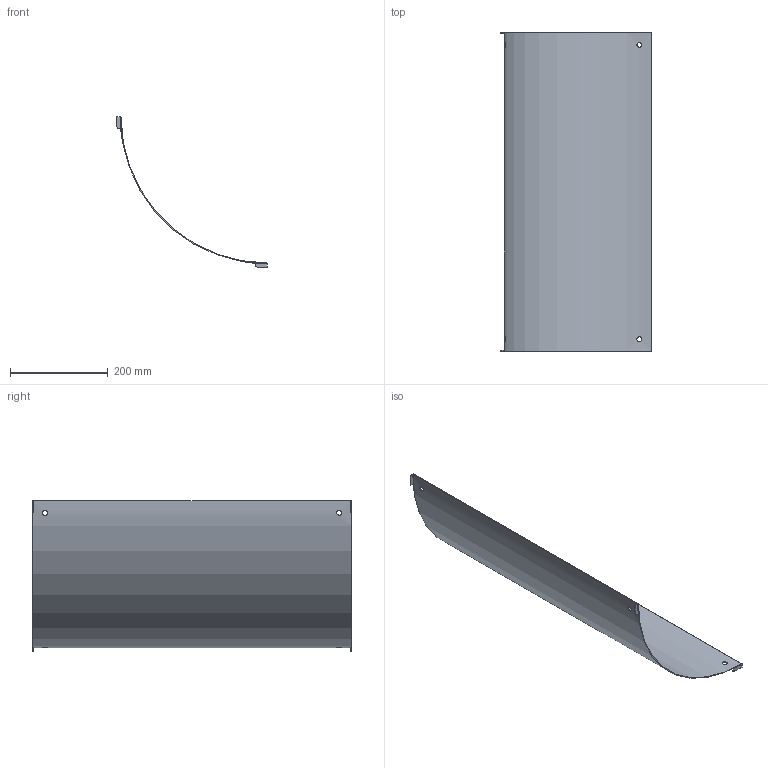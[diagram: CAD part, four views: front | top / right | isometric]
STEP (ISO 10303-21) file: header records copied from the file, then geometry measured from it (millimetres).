
FILE_DESCRIPTION(/* description */ ('','CAx-IF Rec.Pracs.---Representation and Presentation of Product Manufacturing Information (PMI)---4.0---2014-10-13'),/* implementation_level */ '2;1');
FILE_NAME(/* name */ 'Eurostrut_EIRC600-90-300_Cover Inside Riser 90 for Cable Ladder ECL.step',/* time_stamp */ '2026-09-10T11:55:37+02:00',/* author */ (''),/* organization */ (''),/* preprocessor_version */ 'ST-DEVELOPER v20.1',/* originating_system */ 'Autodesk Revit 2027 27.2.0.39',/* authorisation */ '');
FILE_SCHEMA (('AP242_MANAGED_MODEL_BASED_3D_ENGINEERING_MIM_LF { 1 0 10303 442 2 1 4 }'));
Length unit declared in the file: millimetre
Products named in the file (3): TopLevelAssembly; Sweep; Joined Solid Geometry
Assembly tree (2 placements, depth 2):
  TopLevelAssembly
    Sweep
    Joined Solid Geometry
Bounding box: 309 x 653 x 309 mm (x, y, z)
Volume: 463387.5 mm3; surface area: 621805.4 mm2
Topology: 5 solids, 5 shells, 38 faces, 84 edges, 56 vertices
Faces by surface type: plane 20, cylinder 18
Entity records: 1358 total; most frequent: CARTESIAN_POINT 461, DIRECTION 174, ORIENTED_EDGE 168, EDGE_CURVE 84, AXIS2_PLACEMENT_3D 63, VERTEX_POINT 56, LINE 48, VECTOR 48
